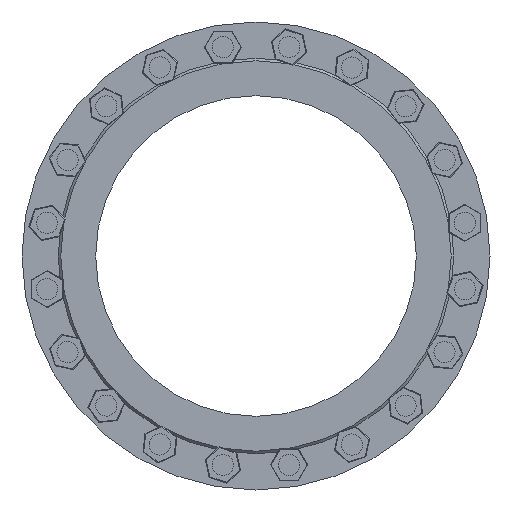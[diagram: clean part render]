
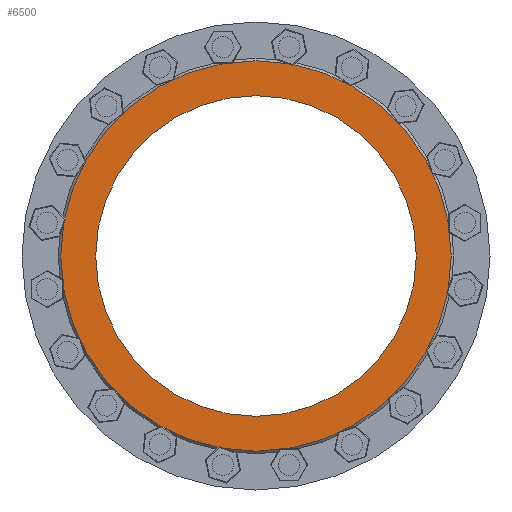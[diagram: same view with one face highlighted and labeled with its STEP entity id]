
A CAD part, left-side view. The second image highlights one B-rep face of the part: STEP entity #6500.
In plain terms, the highlighted planar face has unit normal (-1, 0, 0).
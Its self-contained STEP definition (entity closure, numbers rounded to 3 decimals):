
#1977 = FACE_BOUND ( 'NONE', #10180, .T. ) ;
#2365 = CARTESIAN_POINT ( 'NONE',  ( 0., 0., 0. ) ) ;
#3185 = PLANE ( 'NONE',  #38137 ) ;
#6500 = ADVANCED_FACE ( 'NONE', ( #1977, #39981 ), #3185, .F. ) ;
#6590 = ORIENTED_EDGE ( 'NONE', *, *, #47725, .F. ) ;
#10180 = EDGE_LOOP ( 'NONE', ( #6590 ) ) ;
#13796 = CARTESIAN_POINT ( 'NONE',  ( 0., 0., 0. ) ) ;
#15783 = VERTEX_POINT ( 'NONE', #58761 ) ;
#16276 = EDGE_LOOP ( 'NONE', ( #49770 ) ) ;
#17948 = CIRCLE ( 'NONE', #37722, 304.5 ) ;
#18862 = CARTESIAN_POINT ( 'NONE',  ( 0., -304.5, 0. ) ) ;
#20812 = CARTESIAN_POINT ( 'NONE',  ( 0., 0., 0. ) ) ;
#22751 = DIRECTION ( 'NONE',  ( 0., -1., 0. ) ) ;
#24263 = CIRCLE ( 'NONE', #41039, 250. ) ;
#37722 = AXIS2_PLACEMENT_3D ( 'NONE', #2365, #44706, #59252 ) ;
#38137 = AXIS2_PLACEMENT_3D ( 'NONE', #20812, #53903, #54196 ) ;
#39981 = FACE_OUTER_BOUND ( 'NONE', #16276, .T. ) ;
#41039 = AXIS2_PLACEMENT_3D ( 'NONE', #13796, #42531, #22751 ) ;
#42531 = DIRECTION ( 'NONE',  ( -1., 0., 0. ) ) ;
#42983 = VERTEX_POINT ( 'NONE', #18862 ) ;
#43816 = EDGE_CURVE ( 'NONE', #42983, #42983, #17948, .T. ) ;
#44706 = DIRECTION ( 'NONE',  ( -1., 0., 0. ) ) ;
#47725 = EDGE_CURVE ( 'NONE', #15783, #15783, #24263, .T. ) ;
#49770 = ORIENTED_EDGE ( 'NONE', *, *, #43816, .T. ) ;
#53903 = DIRECTION ( 'NONE',  ( 1., 0., 0. ) ) ;
#54196 = DIRECTION ( 'NONE',  ( 0., 1., 0. ) ) ;
#58761 = CARTESIAN_POINT ( 'NONE',  ( 0., -250., 0. ) ) ;
#59252 = DIRECTION ( 'NONE',  ( 0., -1., 0. ) ) ;
